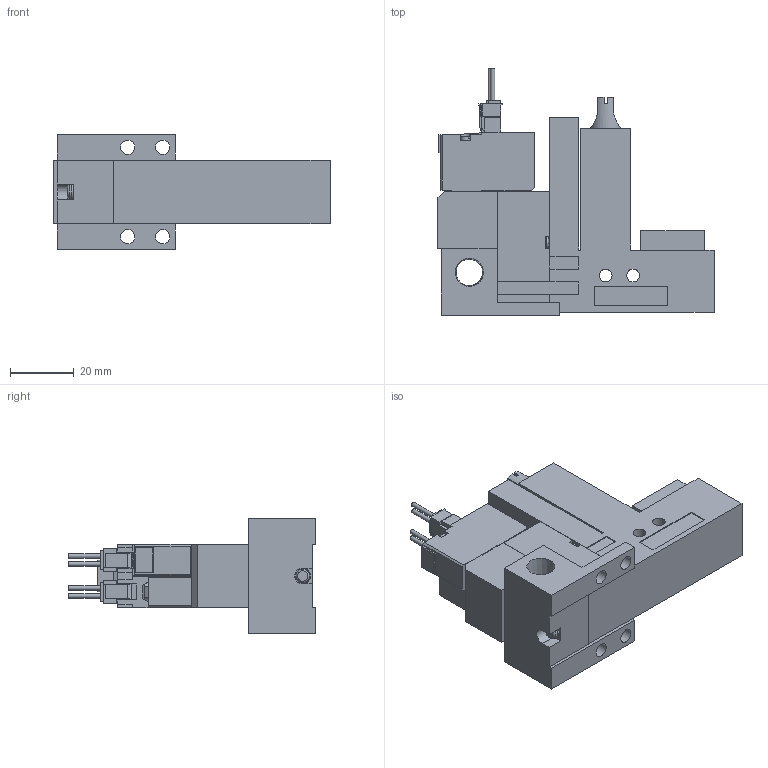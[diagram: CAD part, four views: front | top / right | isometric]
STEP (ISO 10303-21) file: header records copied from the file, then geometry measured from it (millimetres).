
FILE_DESCRIPTION(('STEP AP203'),'1');
FILE_NAME('ZL5ALR101.stp','2025-02-18T05:14:03',(' '),(' '),'Spatial InterOp 3D',' ',' ');
FILE_SCHEMA(('CONFIG_CONTROL_DESIGN'));
Length unit declared in the file: millimetre
Products named in the file (5): BMC22M※※※※ZL5ALR101; Solenoid valve A; Pressure sensor ZL; Unit L; Base MR10R
Assembly tree (4 placements, depth 2):
  BMC22M※※※※ZL5ALR101
    Solenoid valve A
    Pressure sensor ZL
    Unit L
    Base MR10R
Bounding box: 86.6 x 77.45 x 36 mm (x, y, z)
Volume: 82377.6 mm3; surface area: 24723.4 mm2
Topology: 4 solids, 4 shells, 367 faces, 998 edges, 658 vertices
Faces by surface type: plane 312, cylinder 43, cone 9, torus 3
Full cylindrical faces by diameter (mm): 1.4 x4, 2.5 x1, 3 x4, 3.5 x4, 3.6 x1, 4 x2, 4.134 x1, 4.5 x4, 5.2 x1, 6 x1, 6.6 x1, 8.279 x1
Entity records: 11500 total; most frequent: CARTESIAN_POINT 2099, ORIENTED_EDGE 1886, DIRECTION 1805, EDGE_CURVE 943, LINE 815, VECTOR 815, VERTEX_POINT 644, AXIS2_PLACEMENT_3D 495
